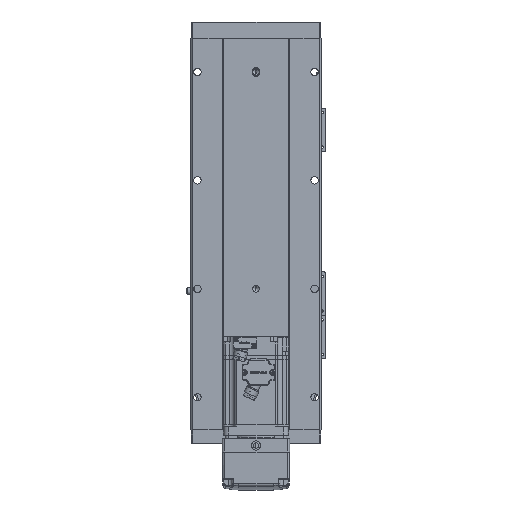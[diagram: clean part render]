
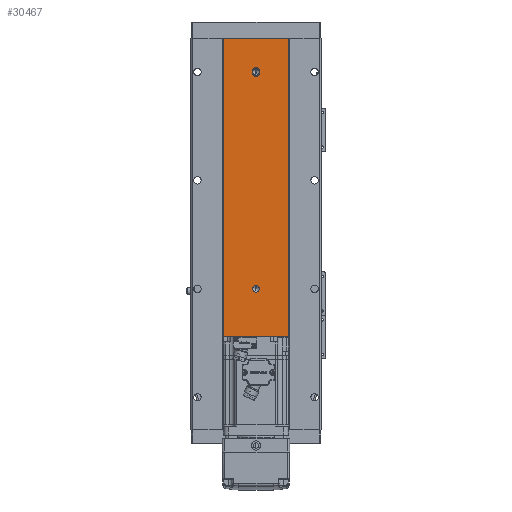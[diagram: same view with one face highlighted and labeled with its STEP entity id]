
A CAD part, front view. The second image highlights one B-rep face of the part: STEP entity #30467.
In plain terms, the highlighted planar face has unit normal (0, -1, 0).
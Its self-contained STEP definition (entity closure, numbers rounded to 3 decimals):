
#219 = VERTEX_POINT ( 'NONE', #7228 ) ;
#691 = CARTESIAN_POINT ( 'NONE',  ( 30., 1., 0. ) ) ;
#1076 = CIRCLE ( 'NONE', #29841, 3. ) ;
#1132 = EDGE_CURVE ( 'NONE', #58315, #87531, #30977, .T. ) ;
#1906 = DIRECTION ( 'NONE',  ( 1., 0., 0. ) ) ;
#2583 = LINE ( 'NONE', #43899, #92678 ) ;
#6747 = AXIS2_PLACEMENT_3D ( 'NONE', #69712, #27994, #88171 ) ;
#7228 = CARTESIAN_POINT ( 'NONE',  ( 0., 1., 33. ) ) ;
#7289 = CARTESIAN_POINT ( 'NONE',  ( 3., 1., 329. ) ) ;
#8543 = DIRECTION ( 'NONE',  ( 0., 0., 1. ) ) ;
#9557 = FACE_BOUND ( 'NONE', #41602, .T. ) ;
#10487 = CARTESIAN_POINT ( 'NONE',  ( 0., 1., 130. ) ) ;
#12934 = DIRECTION ( 'NONE',  ( 0., 0., -1. ) ) ;
#15314 = ORIENTED_EDGE ( 'NONE', *, *, #100562, .F. ) ;
#15479 = EDGE_CURVE ( 'NONE', #88235, #91545, #99476, .T. ) ;
#19670 = CIRCLE ( 'NONE', #28018, 3. ) ;
#21523 = DIRECTION ( 'NONE',  ( 0., -1., 0. ) ) ;
#22501 = VERTEX_POINT ( 'NONE', #32392 ) ;
#22522 = ORIENTED_EDGE ( 'NONE', *, *, #41229, .F. ) ;
#23857 = EDGE_CURVE ( 'NONE', #91545, #78750, #68733, .T. ) ;
#24372 = EDGE_CURVE ( 'NONE', #88552, #67239, #79428, .T. ) ;
#25540 = EDGE_LOOP ( 'NONE', ( #81983, #38088 ) ) ;
#26388 = DIRECTION ( 'NONE',  ( 0., -1., 0. ) ) ;
#27752 = EDGE_CURVE ( 'NONE', #80463, #35650, #93786, .T. ) ;
#27994 = DIRECTION ( 'NONE',  ( 0., 1., 0. ) ) ;
#28018 = AXIS2_PLACEMENT_3D ( 'NONE', #37639, #88793, #63963 ) ;
#29544 = ORIENTED_EDGE ( 'NONE', *, *, #76886, .F. ) ;
#29703 = ORIENTED_EDGE ( 'NONE', *, *, #27752, .F. ) ;
#29841 = AXIS2_PLACEMENT_3D ( 'NONE', #94734, #86473, #68424 ) ;
#30467 = ADVANCED_FACE ( 'NONE', ( #9557, #60597, #86206, #37772 ), #96740, .F. ) ;
#30977 = LINE ( 'NONE', #59949, #71266 ) ;
#31028 = CARTESIAN_POINT ( 'NONE',  ( 3., 1., 331. ) ) ;
#32392 = CARTESIAN_POINT ( 'NONE',  ( 0., 1., 127. ) ) ;
#33147 = CARTESIAN_POINT ( 'NONE',  ( -3., 1., 329. ) ) ;
#35650 = VERTEX_POINT ( 'NONE', #691 ) ;
#36580 = CARTESIAN_POINT ( 'NONE',  ( 0., 1., 326. ) ) ;
#37500 = EDGE_CURVE ( 'NONE', #78750, #58315, #73025, .T. ) ;
#37639 = CARTESIAN_POINT ( 'NONE',  ( 0., 1., 130. ) ) ;
#37772 = FACE_OUTER_BOUND ( 'NONE', #85051, .T. ) ;
#38020 = EDGE_LOOP ( 'NONE', ( #15314, #22522 ) ) ;
#38088 = ORIENTED_EDGE ( 'NONE', *, *, #105950, .F. ) ;
#41229 = EDGE_CURVE ( 'NONE', #63216, #22501, #61643, .T. ) ;
#41602 = EDGE_LOOP ( 'NONE', ( #61991, #59218, #65837, #108223, #29544 ) ) ;
#43899 = CARTESIAN_POINT ( 'NONE',  ( -30., 1., 0. ) ) ;
#45305 = VECTOR ( 'NONE', #65630, 1000. ) ;
#47053 = CARTESIAN_POINT ( 'NONE',  ( -30., 1., 0. ) ) ;
#49462 = CARTESIAN_POINT ( 'NONE',  ( -3., 1., 331. ) ) ;
#51123 = VECTOR ( 'NONE', #74968, 1000. ) ;
#51176 = DIRECTION ( 'NONE',  ( 0., 0., -1. ) ) ;
#51461 = AXIS2_PLACEMENT_3D ( 'NONE', #68869, #26388, #51176 ) ;
#55244 = AXIS2_PLACEMENT_3D ( 'NONE', #101532, #65566, #92203 ) ;
#58178 = EDGE_CURVE ( 'NONE', #60843, #219, #74237, .T. ) ;
#58315 = VERTEX_POINT ( 'NONE', #7289 ) ;
#59218 = ORIENTED_EDGE ( 'NONE', *, *, #37500, .F. ) ;
#59247 = DIRECTION ( 'NONE',  ( 0., 0., -1. ) ) ;
#59949 = CARTESIAN_POINT ( 'NONE',  ( 3., 1., 329. ) ) ;
#60597 = FACE_BOUND ( 'NONE', #38020, .T. ) ;
#60843 = VERTEX_POINT ( 'NONE', #83747 ) ;
#61643 = CIRCLE ( 'NONE', #66183, 3. ) ;
#61991 = ORIENTED_EDGE ( 'NONE', *, *, #1132, .F. ) ;
#63216 = VERTEX_POINT ( 'NONE', #79873 ) ;
#63279 = ORIENTED_EDGE ( 'NONE', *, *, #24372, .T. ) ;
#63963 = DIRECTION ( 'NONE',  ( 0., 0., -1. ) ) ;
#64369 = CARTESIAN_POINT ( 'NONE',  ( 0., 1., 329. ) ) ;
#65566 = DIRECTION ( 'NONE',  ( 0., -1., 0. ) ) ;
#65630 = DIRECTION ( 'NONE',  ( 0., 0., -1. ) ) ;
#65837 = ORIENTED_EDGE ( 'NONE', *, *, #23857, .F. ) ;
#66183 = AXIS2_PLACEMENT_3D ( 'NONE', #10487, #70586, #102097 ) ;
#66673 = ORIENTED_EDGE ( 'NONE', *, *, #104305, .F. ) ;
#67239 = VERTEX_POINT ( 'NONE', #47053 ) ;
#68424 = DIRECTION ( 'NONE',  ( 0., 0., -1. ) ) ;
#68576 = VECTOR ( 'NONE', #12934, 1000. ) ;
#68733 = CIRCLE ( 'NONE', #72339, 3. ) ;
#68869 = CARTESIAN_POINT ( 'NONE',  ( 0., 1., 329. ) ) ;
#69712 = CARTESIAN_POINT ( 'NONE',  ( -30., 1., 361. ) ) ;
#70586 = DIRECTION ( 'NONE',  ( 0., -1., 0. ) ) ;
#71266 = VECTOR ( 'NONE', #8543, 1000. ) ;
#72083 = CARTESIAN_POINT ( 'NONE',  ( 30., 1., 361. ) ) ;
#72339 = AXIS2_PLACEMENT_3D ( 'NONE', #64369, #21523, #106428 ) ;
#73025 = CIRCLE ( 'NONE', #51461, 3. ) ;
#74237 = CIRCLE ( 'NONE', #55244, 3. ) ;
#74968 = DIRECTION ( 'NONE',  ( 0., 0., -1. ) ) ;
#76886 = EDGE_CURVE ( 'NONE', #87531, #88235, #96137, .T. ) ;
#78750 = VERTEX_POINT ( 'NONE', #36580 ) ;
#79428 = LINE ( 'NONE', #99743, #51123 ) ;
#79620 = ORIENTED_EDGE ( 'NONE', *, *, #87873, .T. ) ;
#79873 = CARTESIAN_POINT ( 'NONE',  ( 0., 1., 133. ) ) ;
#80463 = VERTEX_POINT ( 'NONE', #72083 ) ;
#81983 = ORIENTED_EDGE ( 'NONE', *, *, #58178, .F. ) ;
#83747 = CARTESIAN_POINT ( 'NONE',  ( 0., 1., 27. ) ) ;
#85051 = EDGE_LOOP ( 'NONE', ( #79620, #29703, #66673, #63279 ) ) ;
#86206 = FACE_BOUND ( 'NONE', #25540, .T. ) ;
#86473 = DIRECTION ( 'NONE',  ( 0., -1., 0. ) ) ;
#87531 = VERTEX_POINT ( 'NONE', #31028 ) ;
#87873 = EDGE_CURVE ( 'NONE', #67239, #35650, #2583, .T. ) ;
#88171 = DIRECTION ( 'NONE',  ( 0., 0., 1. ) ) ;
#88235 = VERTEX_POINT ( 'NONE', #49462 ) ;
#88552 = VERTEX_POINT ( 'NONE', #104919 ) ;
#88793 = DIRECTION ( 'NONE',  ( 0., -1., 0. ) ) ;
#88861 = LINE ( 'NONE', #99369, #103565 ) ;
#90700 = CARTESIAN_POINT ( 'NONE',  ( -3., 1., 329. ) ) ;
#91545 = VERTEX_POINT ( 'NONE', #33147 ) ;
#92203 = DIRECTION ( 'NONE',  ( 0., 0., -1. ) ) ;
#92678 = VECTOR ( 'NONE', #1906, 1000. ) ;
#93111 = DIRECTION ( 'NONE',  ( 0., -1., 0. ) ) ;
#93786 = LINE ( 'NONE', #98653, #45305 ) ;
#94734 = CARTESIAN_POINT ( 'NONE',  ( 0., 1., 30. ) ) ;
#96137 = CIRCLE ( 'NONE', #109684, 3. ) ;
#96740 = PLANE ( 'NONE',  #6747 ) ;
#98653 = CARTESIAN_POINT ( 'NONE',  ( 30., 1., 361. ) ) ;
#99369 = CARTESIAN_POINT ( 'NONE',  ( -30., 1., 361. ) ) ;
#99476 = LINE ( 'NONE', #90700, #68576 ) ;
#99743 = CARTESIAN_POINT ( 'NONE',  ( -30., 1., 361. ) ) ;
#100562 = EDGE_CURVE ( 'NONE', #22501, #63216, #19670, .T. ) ;
#101532 = CARTESIAN_POINT ( 'NONE',  ( 0., 1., 30. ) ) ;
#102058 = CARTESIAN_POINT ( 'NONE',  ( 0., 1., 331. ) ) ;
#102097 = DIRECTION ( 'NONE',  ( 0., 0., -1. ) ) ;
#103565 = VECTOR ( 'NONE', #108032, 1000. ) ;
#104305 = EDGE_CURVE ( 'NONE', #88552, #80463, #88861, .T. ) ;
#104919 = CARTESIAN_POINT ( 'NONE',  ( -30., 1., 361. ) ) ;
#105950 = EDGE_CURVE ( 'NONE', #219, #60843, #1076, .T. ) ;
#106428 = DIRECTION ( 'NONE',  ( 0., 0., -1. ) ) ;
#108032 = DIRECTION ( 'NONE',  ( 1., 0., 0. ) ) ;
#108223 = ORIENTED_EDGE ( 'NONE', *, *, #15479, .F. ) ;
#109684 = AXIS2_PLACEMENT_3D ( 'NONE', #102058, #93111, #59247 ) ;
